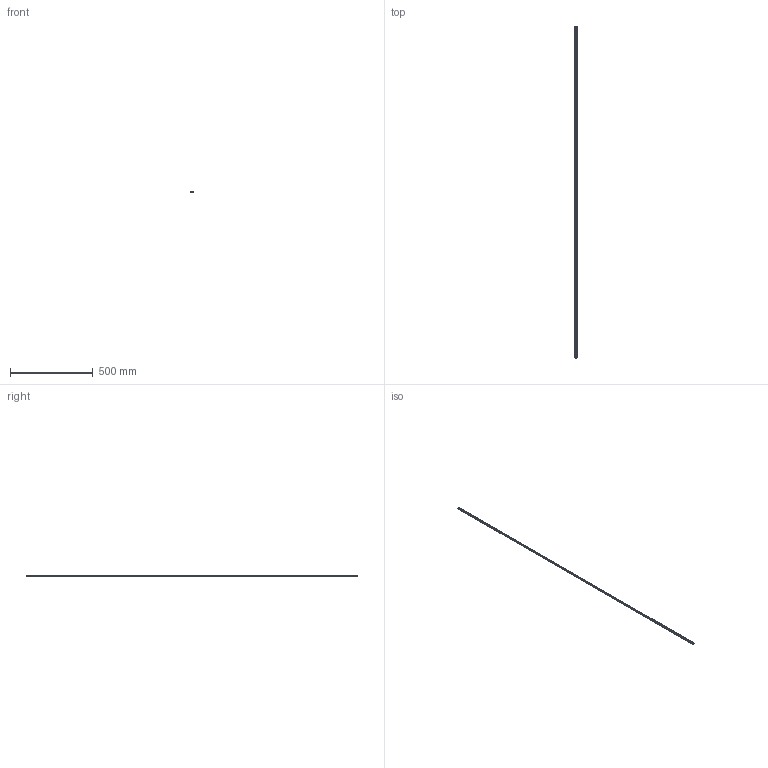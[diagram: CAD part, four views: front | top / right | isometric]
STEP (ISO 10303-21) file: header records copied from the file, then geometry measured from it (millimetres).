
FILE_DESCRIPTION(('STEP AP214'),'1');
FILE_NAME('cctmp_BC7F665F-7708-4C0E-B646-DC55C7E2C430_2020_12_17_17_58_19_0764..stp','2020-12-17T16:58:19',('item Industrietechnik GmbH'),('CADClick - www.CADClick.com'),'Spatial InterOp 3D',' ','unknown authorization');
FILE_SCHEMA(('AUTOMOTIVE_DESIGN'));
Length unit declared in the file: millimetre
Products named in the file (1): item_0043429_Groove Profile 6 Al_L=2000
Bounding box: 13 x 2000 x 8 mm (x, y, z)
Volume: 147290.7 mm3; surface area: 72850.5 mm2
Topology: 1 solids, 1 shells, 22 faces, 60 edges, 40 vertices
Faces by surface type: plane 12, cylinder 10
Entity records: 904 total; most frequent: DIRECTION 126, CARTESIAN_POINT 123, ORIENTED_EDGE 120, EDGE_CURVE 60, AXIS2_PLACEMENT_3D 43, VERTEX_POINT 40, LINE 40, VECTOR 40
